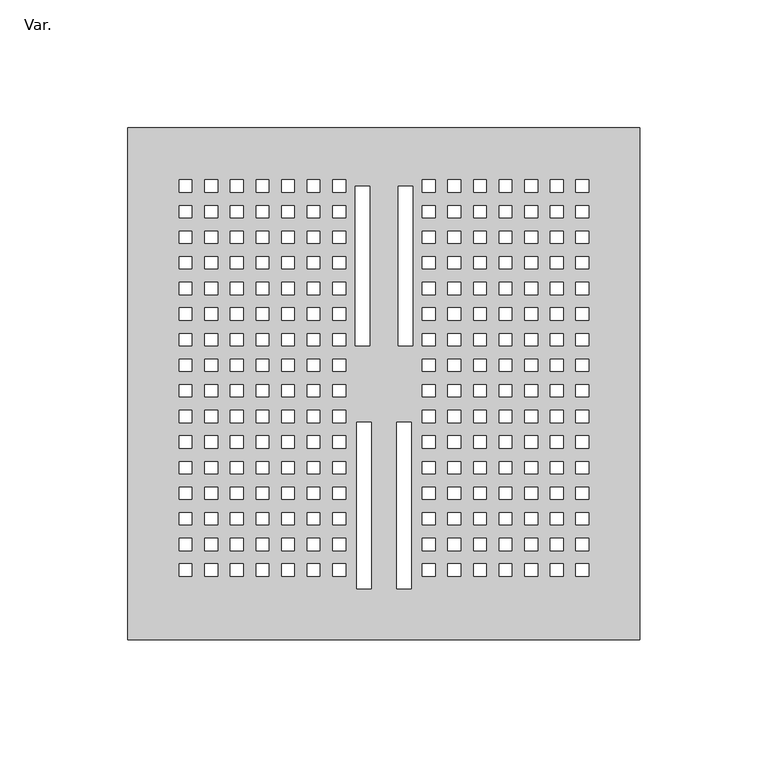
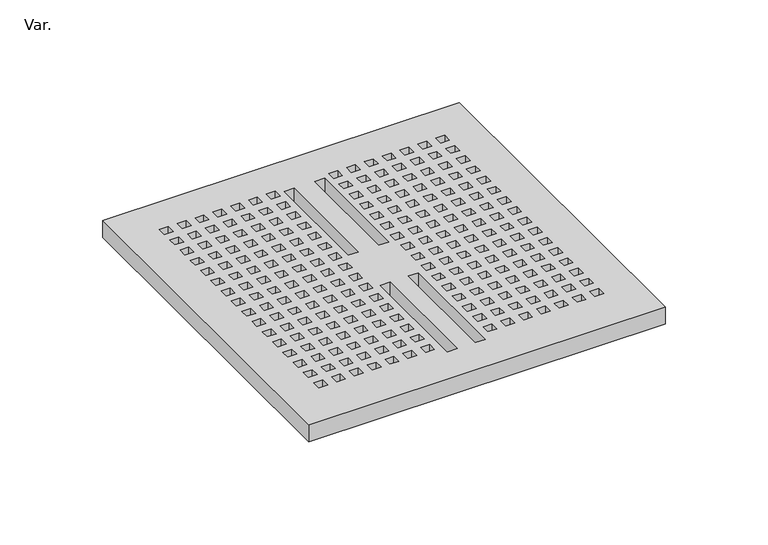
"""IFC4 building model written with IfcOpenShell, lengths in millimetres: pipe fitting geometry, PlastigamaWavin_Unionesdetubería_SanitariaRejillaVentGas20cm : Var.."""

from ifc_helpers import new_model, si_unit, origin, origin_with_axes, place, context, project, spatial, polyline, outline, extrude, source, transform, mapped, element, save


def var_73ac3ff6(model_context):
    return source(origin(), model_context, "Body", "SweptSolid", [
        extrude(outline(polyline([(-100.0, 200.0), (100.0, 200.0), (100.0, 0.0), (-100.0, 0.0), (-100.0, 200.0)]), holes=[polyline([(-11.3046758, 115.0), (-5.6555417, 115.0), (-5.6555417, 177.2854204), (-11.3046758, 177.2854204), (-11.3046758, 115.0)]), polyline([(-10.6491341, 20.0), (-5.0, 20.0), (-5.0, 85.1494369), (-10.6491341, 85.1494369), (-10.6491341, 20.0)]), polyline([(5.6555417, 115.0), (11.3046758, 115.0), (11.3046758, 177.2854204), (5.6555417, 177.2854204), (5.6555417, 115.0)]), polyline([(5.0, 20.0), (10.6491341, 20.0), (10.6491341, 85.1494369), (5.0, 85.1494369), (5.0, 20.0)]), polyline([(-79.9797253, 174.9442398), (-75.0, 174.9442398), (-75.0, 179.7234156), (-79.9797253, 179.7234156), (-79.9797253, 174.9442398)]), polyline([(-69.9797253, 174.9442398), (-65.0, 174.9442398), (-65.0, 179.7234156), (-69.9797253, 179.7234156), (-69.9797253, 174.9442398)]), polyline([(-59.9797253, 174.9442398), (-55.0, 174.9442398), (-55.0, 179.7234156), (-59.9797253, 179.7234156), (-59.9797253, 174.9442398)]), polyline([(-49.9797253, 174.9442398), (-45.0, 174.9442398), (-45.0, 179.7234156), (-49.9797253, 179.7234156), (-49.9797253, 174.9442398)]), polyline([(-39.9797253, 174.9442398), (-35.0, 174.9442398), (-35.0, 179.7234156), (-39.9797253, 179.7234156), (-39.9797253, 174.9442398)]), polyline([(-29.9797253, 174.9442398), (-25.0, 174.9442398), (-25.0, 179.7234156), (-29.9797253, 179.7234156), (-29.9797253, 174.9442398)]), polyline([(-19.9797253, 174.9442398), (-15.0, 174.9442398), (-15.0, 179.7234156), (-19.9797253, 179.7234156), (-19.9797253, 174.9442398)]), polyline([(-79.9797253, 164.9442398), (-75.0, 164.9442398), (-75.0, 169.7234156), (-79.9797253, 169.7234156), (-79.9797253, 164.9442398)]), polyline([(-79.9797253, 154.9442398), (-75.0, 154.9442398), (-75.0, 159.7234156), (-79.9797253, 159.7234156), (-79.9797253, 154.9442398)]), polyline([(-79.9797253, 144.9442398), (-75.0, 144.9442398), (-75.0, 149.7234156), (-79.9797253, 149.7234156), (-79.9797253, 144.9442398)]), polyline([(-79.9797253, 134.9442398), (-75.0, 134.9442398), (-75.0, 139.7234156), (-79.9797253, 139.7234156), (-79.9797253, 134.9442398)]), polyline([(-79.9797253, 124.9442398), (-75.0, 124.9442398), (-75.0, 129.7234156), (-79.9797253, 129.7234156), (-79.9797253, 124.9442398)]), polyline([(-79.9797253, 114.9442398), (-75.0, 114.9442398), (-75.0, 119.7234156), (-79.9797253, 119.7234156), (-79.9797253, 114.9442398)]), polyline([(-79.9797253, 104.9442398), (-75.0, 104.9442398), (-75.0, 109.7234156), (-79.9797253, 109.7234156), (-79.9797253, 104.9442398)]), polyline([(-79.9797253, 94.9442398), (-75.0, 94.9442398), (-75.0, 99.7234156), (-79.9797253, 99.7234156), (-79.9797253, 94.9442398)]), polyline([(-79.9797253, 84.9442398), (-75.0, 84.9442398), (-75.0, 89.7234156), (-79.9797253, 89.7234156), (-79.9797253, 84.9442398)]), polyline([(-79.9797253, 74.9442398), (-75.0, 74.9442398), (-75.0, 79.7234156), (-79.9797253, 79.7234156), (-79.9797253, 74.9442398)]), polyline([(-79.9797253, 64.9442398), (-75.0, 64.9442398), (-75.0, 69.7234156), (-79.9797253, 69.7234156), (-79.9797253, 64.9442398)]), polyline([(-79.9797253, 54.9442398), (-75.0, 54.9442398), (-75.0, 59.7234156), (-79.9797253, 59.7234156), (-79.9797253, 54.9442398)]), polyline([(-79.9797253, 44.9442398), (-75.0, 44.9442398), (-75.0, 49.7234156), (-79.9797253, 49.7234156), (-79.9797253, 44.9442398)]), polyline([(-79.9797253, 34.9442398), (-75.0, 34.9442398), (-75.0, 39.7234156), (-79.9797253, 39.7234156), (-79.9797253, 34.9442398)]), polyline([(-79.9797253, 24.9442398), (-75.0, 24.9442398), (-75.0, 29.7234156), (-79.9797253, 29.7234156), (-79.9797253, 24.9442398)]), polyline([(-69.9797253, 164.9442398), (-65.0, 164.9442398), (-65.0, 169.7234156), (-69.9797253, 169.7234156), (-69.9797253, 164.9442398)]), polyline([(-59.9797253, 164.9442398), (-55.0, 164.9442398), (-55.0, 169.7234156), (-59.9797253, 169.7234156), (-59.9797253, 164.9442398)]), polyline([(-49.9797253, 164.9442398), (-45.0, 164.9442398), (-45.0, 169.7234156), (-49.9797253, 169.7234156), (-49.9797253, 164.9442398)]), polyline([(-39.9797253, 164.9442398), (-35.0, 164.9442398), (-35.0, 169.7234156), (-39.9797253, 169.7234156), (-39.9797253, 164.9442398)]), polyline([(-29.9797253, 164.9442398), (-25.0, 164.9442398), (-25.0, 169.7234156), (-29.9797253, 169.7234156), (-29.9797253, 164.9442398)]), polyline([(-19.9797253, 164.9442398), (-15.0, 164.9442398), (-15.0, 169.7234156), (-19.9797253, 169.7234156), (-19.9797253, 164.9442398)]), polyline([(-69.9797253, 154.9442398), (-65.0, 154.9442398), (-65.0, 159.7234156), (-69.9797253, 159.7234156), (-69.9797253, 154.9442398)]), polyline([(-59.9797253, 154.9442398), (-55.0, 154.9442398), (-55.0, 159.7234156), (-59.9797253, 159.7234156), (-59.9797253, 154.9442398)]), polyline([(-49.9797253, 154.9442398), (-45.0, 154.9442398), (-45.0, 159.7234156), (-49.9797253, 159.7234156), (-49.9797253, 154.9442398)]), polyline([(-39.9797253, 154.9442398), (-35.0, 154.9442398), (-35.0, 159.7234156), (-39.9797253, 159.7234156), (-39.9797253, 154.9442398)]), polyline([(-29.9797253, 154.9442398), (-25.0, 154.9442398), (-25.0, 159.7234156), (-29.9797253, 159.7234156), (-29.9797253, 154.9442398)]), polyline([(-19.9797253, 154.9442398), (-15.0, 154.9442398), (-15.0, 159.7234156), (-19.9797253, 159.7234156), (-19.9797253, 154.9442398)]), polyline([(-69.9797253, 144.9442398), (-65.0, 144.9442398), (-65.0, 149.7234156), (-69.9797253, 149.7234156), (-69.9797253, 144.9442398)]), polyline([(-59.9797253, 144.9442398), (-55.0, 144.9442398), (-55.0, 149.7234156), (-59.9797253, 149.7234156), (-59.9797253, 144.9442398)]), polyline([(-49.9797253, 144.9442398), (-45.0, 144.9442398), (-45.0, 149.7234156), (-49.9797253, 149.7234156), (-49.9797253, 144.9442398)]), polyline([(-39.9797253, 144.9442398), (-35.0, 144.9442398), (-35.0, 149.7234156), (-39.9797253, 149.7234156), (-39.9797253, 144.9442398)]), polyline([(-29.9797253, 144.9442398), (-25.0, 144.9442398), (-25.0, 149.7234156), (-29.9797253, 149.7234156), (-29.9797253, 144.9442398)]), polyline([(-19.9797253, 144.9442398), (-15.0, 144.9442398), (-15.0, 149.7234156), (-19.9797253, 149.7234156), (-19.9797253, 144.9442398)]), polyline([(-69.9797253, 134.9442398), (-65.0, 134.9442398), (-65.0, 139.7234156), (-69.9797253, 139.7234156), (-69.9797253, 134.9442398)]), polyline([(-59.9797253, 134.9442398), (-55.0, 134.9442398), (-55.0, 139.7234156), (-59.9797253, 139.7234156), (-59.9797253, 134.9442398)]), polyline([(-49.9797253, 134.9442398), (-45.0, 134.9442398), (-45.0, 139.7234156), (-49.9797253, 139.7234156), (-49.9797253, 134.9442398)]), polyline([(-39.9797253, 134.9442398), (-35.0, 134.9442398), (-35.0, 139.7234156), (-39.9797253, 139.7234156), (-39.9797253, 134.9442398)]), polyline([(-29.9797253, 134.9442398), (-25.0, 134.9442398), (-25.0, 139.7234156), (-29.9797253, 139.7234156), (-29.9797253, 134.9442398)]), polyline([(-19.9797253, 134.9442398), (-15.0, 134.9442398), (-15.0, 139.7234156), (-19.9797253, 139.7234156), (-19.9797253, 134.9442398)]), polyline([(-69.9797253, 124.9442398), (-65.0, 124.9442398), (-65.0, 129.7234156), (-69.9797253, 129.7234156), (-69.9797253, 124.9442398)]), polyline([(-59.9797253, 124.9442398), (-55.0, 124.9442398), (-55.0, 129.7234156), (-59.9797253, 129.7234156), (-59.9797253, 124.9442398)]), polyline([(-49.9797253, 124.9442398), (-45.0, 124.9442398), (-45.0, 129.7234156), (-49.9797253, 129.7234156), (-49.9797253, 124.9442398)]), polyline([(-39.9797253, 124.9442398), (-35.0, 124.9442398), (-35.0, 129.7234156), (-39.9797253, 129.7234156), (-39.9797253, 124.9442398)]), polyline([(-29.9797253, 124.9442398), (-25.0, 124.9442398), (-25.0, 129.7234156), (-29.9797253, 129.7234156), (-29.9797253, 124.9442398)]), polyline([(-19.9797253, 124.9442398), (-15.0, 124.9442398), (-15.0, 129.7234156), (-19.9797253, 129.7234156), (-19.9797253, 124.9442398)]), polyline([(-69.9797253, 114.9442398), (-65.0, 114.9442398), (-65.0, 119.7234156), (-69.9797253, 119.7234156), (-69.9797253, 114.9442398)]), polyline([(-59.9797253, 114.9442398), (-55.0, 114.9442398), (-55.0, 119.7234156), (-59.9797253, 119.7234156), (-59.9797253, 114.9442398)]), polyline([(-49.9797253, 114.9442398), (-45.0, 114.9442398), (-45.0, 119.7234156), (-49.9797253, 119.7234156), (-49.9797253, 114.9442398)]), polyline([(-39.9797253, 114.9442398), (-35.0, 114.9442398), (-35.0, 119.7234156), (-39.9797253, 119.7234156), (-39.9797253, 114.9442398)]), polyline([(-29.9797253, 114.9442398), (-25.0, 114.9442398), (-25.0, 119.7234156), (-29.9797253, 119.7234156), (-29.9797253, 114.9442398)]), polyline([(-19.9797253, 114.9442398), (-15.0, 114.9442398), (-15.0, 119.7234156), (-19.9797253, 119.7234156), (-19.9797253, 114.9442398)]), polyline([(-69.9797253, 104.9442398), (-65.0, 104.9442398), (-65.0, 109.7234156), (-69.9797253, 109.7234156), (-69.9797253, 104.9442398)]), polyline([(-59.9797253, 104.9442398), (-55.0, 104.9442398), (-55.0, 109.7234156), (-59.9797253, 109.7234156), (-59.9797253, 104.9442398)]), polyline([(-49.9797253, 104.9442398), (-45.0, 104.9442398), (-45.0, 109.7234156), (-49.9797253, 109.7234156), (-49.9797253, 104.9442398)]), polyline([(-39.9797253, 104.9442398), (-35.0, 104.9442398), (-35.0, 109.7234156), (-39.9797253, 109.7234156), (-39.9797253, 104.9442398)]), polyline([(-29.9797253, 104.9442398), (-25.0, 104.9442398), (-25.0, 109.7234156), (-29.9797253, 109.7234156), (-29.9797253, 104.9442398)]), polyline([(-19.9797253, 104.9442398), (-15.0, 104.9442398), (-15.0, 109.7234156), (-19.9797253, 109.7234156), (-19.9797253, 104.9442398)]), polyline([(-69.9797253, 94.9442398), (-65.0, 94.9442398), (-65.0, 99.7234156), (-69.9797253, 99.7234156), (-69.9797253, 94.9442398)]), polyline([(-59.9797253, 94.9442398), (-55.0, 94.9442398), (-55.0, 99.7234156), (-59.9797253, 99.7234156), (-59.9797253, 94.9442398)]), polyline([(-49.9797253, 94.9442398), (-45.0, 94.9442398), (-45.0, 99.7234156), (-49.9797253, 99.7234156), (-49.9797253, 94.9442398)]), polyline([(-39.9797253, 94.9442398), (-35.0, 94.9442398), (-35.0, 99.7234156), (-39.9797253, 99.7234156), (-39.9797253, 94.9442398)]), polyline([(-29.9797253, 94.9442398), (-25.0, 94.9442398), (-25.0, 99.7234156), (-29.9797253, 99.7234156), (-29.9797253, 94.9442398)]), polyline([(-19.9797253, 94.9442398), (-15.0, 94.9442398), (-15.0, 99.7234156), (-19.9797253, 99.7234156), (-19.9797253, 94.9442398)]), polyline([(-69.9797253, 84.9442398), (-65.0, 84.9442398), (-65.0, 89.7234156), (-69.9797253, 89.7234156), (-69.9797253, 84.9442398)]), polyline([(-59.9797253, 84.9442398), (-55.0, 84.9442398), (-55.0, 89.7234156), (-59.9797253, 89.7234156), (-59.9797253, 84.9442398)]), polyline([(-49.9797253, 84.9442398), (-45.0, 84.9442398), (-45.0, 89.7234156), (-49.9797253, 89.7234156), (-49.9797253, 84.9442398)]), polyline([(-39.9797253, 84.9442398), (-35.0, 84.9442398), (-35.0, 89.7234156), (-39.9797253, 89.7234156), (-39.9797253, 84.9442398)]), polyline([(-29.9797253, 84.9442398), (-25.0, 84.9442398), (-25.0, 89.7234156), (-29.9797253, 89.7234156), (-29.9797253, 84.9442398)]), polyline([(-19.9797253, 84.9442398), (-15.0, 84.9442398), (-15.0, 89.7234156), (-19.9797253, 89.7234156), (-19.9797253, 84.9442398)]), polyline([(-69.9797253, 74.9442398), (-65.0, 74.9442398), (-65.0, 79.7234156), (-69.9797253, 79.7234156), (-69.9797253, 74.9442398)]), polyline([(-59.9797253, 74.9442398), (-55.0, 74.9442398), (-55.0, 79.7234156), (-59.9797253, 79.7234156), (-59.9797253, 74.9442398)]), polyline([(-49.9797253, 74.9442398), (-45.0, 74.9442398), (-45.0, 79.7234156), (-49.9797253, 79.7234156), (-49.9797253, 74.9442398)]), polyline([(-39.9797253, 74.9442398), (-35.0, 74.9442398), (-35.0, 79.7234156), (-39.9797253, 79.7234156), (-39.9797253, 74.9442398)]), polyline([(-29.9797253, 74.9442398), (-25.0, 74.9442398), (-25.0, 79.7234156), (-29.9797253, 79.7234156), (-29.9797253, 74.9442398)]), polyline([(-19.9797253, 74.9442398), (-15.0, 74.9442398), (-15.0, 79.7234156), (-19.9797253, 79.7234156), (-19.9797253, 74.9442398)]), polyline([(-69.9797253, 64.9442398), (-65.0, 64.9442398), (-65.0, 69.7234156), (-69.9797253, 69.7234156), (-69.9797253, 64.9442398)]), polyline([(-59.9797253, 64.9442398), (-55.0, 64.9442398), (-55.0, 69.7234156), (-59.9797253, 69.7234156), (-59.9797253, 64.9442398)]), polyline([(-49.9797253, 64.9442398), (-45.0, 64.9442398), (-45.0, 69.7234156), (-49.9797253, 69.7234156), (-49.9797253, 64.9442398)]), polyline([(-39.9797253, 64.9442398), (-35.0, 64.9442398), (-35.0, 69.7234156), (-39.9797253, 69.7234156), (-39.9797253, 64.9442398)]), polyline([(-29.9797253, 64.9442398), (-25.0, 64.9442398), (-25.0, 69.7234156), (-29.9797253, 69.7234156), (-29.9797253, 64.9442398)]), polyline([(-19.9797253, 64.9442398), (-15.0, 64.9442398), (-15.0, 69.7234156), (-19.9797253, 69.7234156), (-19.9797253, 64.9442398)]), polyline([(-69.9797253, 54.9442398), (-65.0, 54.9442398), (-65.0, 59.7234156), (-69.9797253, 59.7234156), (-69.9797253, 54.9442398)]), polyline([(-59.9797253, 54.9442398), (-55.0, 54.9442398), (-55.0, 59.7234156), (-59.9797253, 59.7234156), (-59.9797253, 54.9442398)]), polyline([(-49.9797253, 54.9442398), (-45.0, 54.9442398), (-45.0, 59.7234156), (-49.9797253, 59.7234156), (-49.9797253, 54.9442398)]), polyline([(-39.9797253, 54.9442398), (-35.0, 54.9442398), (-35.0, 59.7234156), (-39.9797253, 59.7234156), (-39.9797253, 54.9442398)]), polyline([(-29.9797253, 54.9442398), (-25.0, 54.9442398), (-25.0, 59.7234156), (-29.9797253, 59.7234156), (-29.9797253, 54.9442398)]), polyline([(-19.9797253, 54.9442398), (-15.0, 54.9442398), (-15.0, 59.7234156), (-19.9797253, 59.7234156), (-19.9797253, 54.9442398)]), polyline([(-69.9797253, 44.9442398), (-65.0, 44.9442398), (-65.0, 49.7234156), (-69.9797253, 49.7234156), (-69.9797253, 44.9442398)]), polyline([(-59.9797253, 44.9442398), (-55.0, 44.9442398), (-55.0, 49.7234156), (-59.9797253, 49.7234156), (-59.9797253, 44.9442398)]), polyline([(-49.9797253, 44.9442398), (-45.0, 44.9442398), (-45.0, 49.7234156), (-49.9797253, 49.7234156), (-49.9797253, 44.9442398)]), polyline([(-39.9797253, 44.9442398), (-35.0, 44.9442398), (-35.0, 49.7234156), (-39.9797253, 49.7234156), (-39.9797253, 44.9442398)]), polyline([(-29.9797253, 44.9442398), (-25.0, 44.9442398), (-25.0, 49.7234156), (-29.9797253, 49.7234156), (-29.9797253, 44.9442398)]), polyline([(-19.9797253, 44.9442398), (-15.0, 44.9442398), (-15.0, 49.7234156), (-19.9797253, 49.7234156), (-19.9797253, 44.9442398)]), polyline([(-69.9797253, 34.9442398), (-65.0, 34.9442398), (-65.0, 39.7234156), (-69.9797253, 39.7234156), (-69.9797253, 34.9442398)]), polyline([(-59.9797253, 34.9442398), (-55.0, 34.9442398), (-55.0, 39.7234156), (-59.9797253, 39.7234156), (-59.9797253, 34.9442398)]), polyline([(-49.9797253, 34.9442398), (-45.0, 34.9442398), (-45.0, 39.7234156), (-49.9797253, 39.7234156), (-49.9797253, 34.9442398)]), polyline([(-39.9797253, 34.9442398), (-35.0, 34.9442398), (-35.0, 39.7234156), (-39.9797253, 39.7234156), (-39.9797253, 34.9442398)]), polyline([(-29.9797253, 34.9442398), (-25.0, 34.9442398), (-25.0, 39.7234156), (-29.9797253, 39.7234156), (-29.9797253, 34.9442398)]), polyline([(-19.9797253, 34.9442398), (-15.0, 34.9442398), (-15.0, 39.7234156), (-19.9797253, 39.7234156), (-19.9797253, 34.9442398)]), polyline([(-69.9797253, 24.9442398), (-65.0, 24.9442398), (-65.0, 29.7234156), (-69.9797253, 29.7234156), (-69.9797253, 24.9442398)]), polyline([(-59.9797253, 24.9442398), (-55.0, 24.9442398), (-55.0, 29.7234156), (-59.9797253, 29.7234156), (-59.9797253, 24.9442398)]), polyline([(-49.9797253, 24.9442398), (-45.0, 24.9442398), (-45.0, 29.7234156), (-49.9797253, 29.7234156), (-49.9797253, 24.9442398)]), polyline([(-39.9797253, 24.9442398), (-35.0, 24.9442398), (-35.0, 29.7234156), (-39.9797253, 29.7234156), (-39.9797253, 24.9442398)]), polyline([(-29.9797253, 24.9442398), (-25.0, 24.9442398), (-25.0, 29.7234156), (-29.9797253, 29.7234156), (-29.9797253, 24.9442398)]), polyline([(-19.9797253, 24.9442398), (-15.0, 24.9442398), (-15.0, 29.7234156), (-19.9797253, 29.7234156), (-19.9797253, 24.9442398)]), polyline([(75.0, 174.9442398), (79.9797253, 174.9442398), (79.9797253, 179.7234156), (75.0, 179.7234156), (75.0, 174.9442398)]), polyline([(65.0, 174.9442398), (69.9797253, 174.9442398), (69.9797253, 179.7234156), (65.0, 179.7234156), (65.0, 174.9442398)]), polyline([(55.0, 174.9442398), (59.9797253, 174.9442398), (59.9797253, 179.7234156), (55.0, 179.7234156), (55.0, 174.9442398)]), polyline([(45.0, 174.9442398), (49.9797253, 174.9442398), (49.9797253, 179.7234156), (45.0, 179.7234156), (45.0, 174.9442398)]), polyline([(35.0, 174.9442398), (39.9797253, 174.9442398), (39.9797253, 179.7234156), (35.0, 179.7234156), (35.0, 174.9442398)]), polyline([(25.0, 174.9442398), (29.9797253, 174.9442398), (29.9797253, 179.7234156), (25.0, 179.7234156), (25.0, 174.9442398)]), polyline([(15.0, 174.9442398), (19.9797253, 174.9442398), (19.9797253, 179.7234156), (15.0, 179.7234156), (15.0, 174.9442398)]), polyline([(75.0, 164.9442398), (79.9797253, 164.9442398), (79.9797253, 169.7234156), (75.0, 169.7234156), (75.0, 164.9442398)]), polyline([(75.0, 154.9442398), (79.9797253, 154.9442398), (79.9797253, 159.7234156), (75.0, 159.7234156), (75.0, 154.9442398)]), polyline([(75.0, 144.9442398), (79.9797253, 144.9442398), (79.9797253, 149.7234156), (75.0, 149.7234156), (75.0, 144.9442398)]), polyline([(75.0, 134.9442398), (79.9797253, 134.9442398), (79.9797253, 139.7234156), (75.0, 139.7234156), (75.0, 134.9442398)]), polyline([(75.0, 124.9442398), (79.9797253, 124.9442398), (79.9797253, 129.7234156), (75.0, 129.7234156), (75.0, 124.9442398)]), polyline([(75.0, 114.9442398), (79.9797253, 114.9442398), (79.9797253, 119.7234156), (75.0, 119.7234156), (75.0, 114.9442398)]), polyline([(75.0, 104.9442398), (79.9797253, 104.9442398), (79.9797253, 109.7234156), (75.0, 109.7234156), (75.0, 104.9442398)]), polyline([(75.0, 94.9442398), (79.9797253, 94.9442398), (79.9797253, 99.7234156), (75.0, 99.7234156), (75.0, 94.9442398)]), polyline([(75.0, 84.9442398), (79.9797253, 84.9442398), (79.9797253, 89.7234156), (75.0, 89.7234156), (75.0, 84.9442398)]), polyline([(75.0, 74.9442398), (79.9797253, 74.9442398), (79.9797253, 79.7234156), (75.0, 79.7234156), (75.0, 74.9442398)]), polyline([(75.0, 64.9442398), (79.9797253, 64.9442398), (79.9797253, 69.7234156), (75.0, 69.7234156), (75.0, 64.9442398)]), polyline([(75.0, 54.9442398), (79.9797253, 54.9442398), (79.9797253, 59.7234156), (75.0, 59.7234156), (75.0, 54.9442398)]), polyline([(75.0, 44.9442398), (79.9797253, 44.9442398), (79.9797253, 49.7234156), (75.0, 49.7234156), (75.0, 44.9442398)]), polyline([(75.0, 34.9442398), (79.9797253, 34.9442398), (79.9797253, 39.7234156), (75.0, 39.7234156), (75.0, 34.9442398)]), polyline([(75.0, 24.9442398), (79.9797253, 24.9442398), (79.9797253, 29.7234156), (75.0, 29.7234156), (75.0, 24.9442398)]), polyline([(65.0, 164.9442398), (69.9797253, 164.9442398), (69.9797253, 169.7234156), (65.0, 169.7234156), (65.0, 164.9442398)]), polyline([(55.0, 164.9442398), (59.9797253, 164.9442398), (59.9797253, 169.7234156), (55.0, 169.7234156), (55.0, 164.9442398)]), polyline([(45.0, 164.9442398), (49.9797253, 164.9442398), (49.9797253, 169.7234156), (45.0, 169.7234156), (45.0, 164.9442398)]), polyline([(35.0, 164.9442398), (39.9797253, 164.9442398), (39.9797253, 169.7234156), (35.0, 169.7234156), (35.0, 164.9442398)]), polyline([(25.0, 164.9442398), (29.9797253, 164.9442398), (29.9797253, 169.7234156), (25.0, 169.7234156), (25.0, 164.9442398)]), polyline([(15.0, 164.9442398), (19.9797253, 164.9442398), (19.9797253, 169.7234156), (15.0, 169.7234156), (15.0, 164.9442398)]), polyline([(65.0, 154.9442398), (69.9797253, 154.9442398), (69.9797253, 159.7234156), (65.0, 159.7234156), (65.0, 154.9442398)]), polyline([(55.0, 154.9442398), (59.9797253, 154.9442398), (59.9797253, 159.7234156), (55.0, 159.7234156), (55.0, 154.9442398)]), polyline([(45.0, 154.9442398), (49.9797253, 154.9442398), (49.9797253, 159.7234156), (45.0, 159.7234156), (45.0, 154.9442398)]), polyline([(35.0, 154.9442398), (39.9797253, 154.9442398), (39.9797253, 159.7234156), (35.0, 159.7234156), (35.0, 154.9442398)]), polyline([(25.0, 154.9442398), (29.9797253, 154.9442398), (29.9797253, 159.7234156), (25.0, 159.7234156), (25.0, 154.9442398)]), polyline([(15.0, 154.9442398), (19.9797253, 154.9442398), (19.9797253, 159.7234156), (15.0, 159.7234156), (15.0, 154.9442398)]), polyline([(65.0, 144.9442398), (69.9797253, 144.9442398), (69.9797253, 149.7234156), (65.0, 149.7234156), (65.0, 144.9442398)]), polyline([(55.0, 144.9442398), (59.9797253, 144.9442398), (59.9797253, 149.7234156), (55.0, 149.7234156), (55.0, 144.9442398)]), polyline([(45.0, 144.9442398), (49.9797253, 144.9442398), (49.9797253, 149.7234156), (45.0, 149.7234156), (45.0, 144.9442398)]), polyline([(35.0, 144.9442398), (39.9797253, 144.9442398), (39.9797253, 149.7234156), (35.0, 149.7234156), (35.0, 144.9442398)]), polyline([(25.0, 144.9442398), (29.9797253, 144.9442398), (29.9797253, 149.7234156), (25.0, 149.7234156), (25.0, 144.9442398)]), polyline([(15.0, 144.9442398), (19.9797253, 144.9442398), (19.9797253, 149.7234156), (15.0, 149.7234156), (15.0, 144.9442398)]), polyline([(65.0, 134.9442398), (69.9797253, 134.9442398), (69.9797253, 139.7234156), (65.0, 139.7234156), (65.0, 134.9442398)]), polyline([(55.0, 134.9442398), (59.9797253, 134.9442398), (59.9797253, 139.7234156), (55.0, 139.7234156), (55.0, 134.9442398)]), polyline([(45.0, 134.9442398), (49.9797253, 134.9442398), (49.9797253, 139.7234156), (45.0, 139.7234156), (45.0, 134.9442398)]), polyline([(35.0, 134.9442398), (39.9797253, 134.9442398), (39.9797253, 139.7234156), (35.0, 139.7234156), (35.0, 134.9442398)]), polyline([(25.0, 134.9442398), (29.9797253, 134.9442398), (29.9797253, 139.7234156), (25.0, 139.7234156), (25.0, 134.9442398)]), polyline([(15.0, 134.9442398), (19.9797253, 134.9442398), (19.9797253, 139.7234156), (15.0, 139.7234156), (15.0, 134.9442398)]), polyline([(65.0, 124.9442398), (69.9797253, 124.9442398), (69.9797253, 129.7234156), (65.0, 129.7234156), (65.0, 124.9442398)]), polyline([(55.0, 124.9442398), (59.9797253, 124.9442398), (59.9797253, 129.7234156), (55.0, 129.7234156), (55.0, 124.9442398)]), polyline([(45.0, 124.9442398), (49.9797253, 124.9442398), (49.9797253, 129.7234156), (45.0, 129.7234156), (45.0, 124.9442398)]), polyline([(35.0, 124.9442398), (39.9797253, 124.9442398), (39.9797253, 129.7234156), (35.0, 129.7234156), (35.0, 124.9442398)]), polyline([(25.0, 124.9442398), (29.9797253, 124.9442398), (29.9797253, 129.7234156), (25.0, 129.7234156), (25.0, 124.9442398)]), polyline([(15.0, 124.9442398), (19.9797253, 124.9442398), (19.9797253, 129.7234156), (15.0, 129.7234156), (15.0, 124.9442398)]), polyline([(65.0, 114.9442398), (69.9797253, 114.9442398), (69.9797253, 119.7234156), (65.0, 119.7234156), (65.0, 114.9442398)]), polyline([(55.0, 114.9442398), (59.9797253, 114.9442398), (59.9797253, 119.7234156), (55.0, 119.7234156), (55.0, 114.9442398)]), polyline([(45.0, 114.9442398), (49.9797253, 114.9442398), (49.9797253, 119.7234156), (45.0, 119.7234156), (45.0, 114.9442398)]), polyline([(35.0, 114.9442398), (39.9797253, 114.9442398), (39.9797253, 119.7234156), (35.0, 119.7234156), (35.0, 114.9442398)]), polyline([(25.0, 114.9442398), (29.9797253, 114.9442398), (29.9797253, 119.7234156), (25.0, 119.7234156), (25.0, 114.9442398)]), polyline([(15.0, 114.9442398), (19.9797253, 114.9442398), (19.9797253, 119.7234156), (15.0, 119.7234156), (15.0, 114.9442398)]), polyline([(65.0, 104.9442398), (69.9797253, 104.9442398), (69.9797253, 109.7234156), (65.0, 109.7234156), (65.0, 104.9442398)]), polyline([(55.0, 104.9442398), (59.9797253, 104.9442398), (59.9797253, 109.7234156), (55.0, 109.7234156), (55.0, 104.9442398)]), polyline([(45.0, 104.9442398), (49.9797253, 104.9442398), (49.9797253, 109.7234156), (45.0, 109.7234156), (45.0, 104.9442398)]), polyline([(35.0, 104.9442398), (39.9797253, 104.9442398), (39.9797253, 109.7234156), (35.0, 109.7234156), (35.0, 104.9442398)]), polyline([(25.0, 104.9442398), (29.9797253, 104.9442398), (29.9797253, 109.7234156), (25.0, 109.7234156), (25.0, 104.9442398)]), polyline([(15.0, 104.9442398), (19.9797253, 104.9442398), (19.9797253, 109.7234156), (15.0, 109.7234156), (15.0, 104.9442398)]), polyline([(65.0, 94.9442398), (69.9797253, 94.9442398), (69.9797253, 99.7234156), (65.0, 99.7234156), (65.0, 94.9442398)]), polyline([(55.0, 94.9442398), (59.9797253, 94.9442398), (59.9797253, 99.7234156), (55.0, 99.7234156), (55.0, 94.9442398)]), polyline([(45.0, 94.9442398), (49.9797253, 94.9442398), (49.9797253, 99.7234156), (45.0, 99.7234156), (45.0, 94.9442398)]), polyline([(35.0, 94.9442398), (39.9797253, 94.9442398), (39.9797253, 99.7234156), (35.0, 99.7234156), (35.0, 94.9442398)]), polyline([(25.0, 94.9442398), (29.9797253, 94.9442398), (29.9797253, 99.7234156), (25.0, 99.7234156), (25.0, 94.9442398)]), polyline([(15.0, 94.9442398), (19.9797253, 94.9442398), (19.9797253, 99.7234156), (15.0, 99.7234156), (15.0, 94.9442398)]), polyline([(65.0, 84.9442398), (69.9797253, 84.9442398), (69.9797253, 89.7234156), (65.0, 89.7234156), (65.0, 84.9442398)]), polyline([(55.0, 84.9442398), (59.9797253, 84.9442398), (59.9797253, 89.7234156), (55.0, 89.7234156), (55.0, 84.9442398)]), polyline([(45.0, 84.9442398), (49.9797253, 84.9442398), (49.9797253, 89.7234156), (45.0, 89.7234156), (45.0, 84.9442398)]), polyline([(35.0, 84.9442398), (39.9797253, 84.9442398), (39.9797253, 89.7234156), (35.0, 89.7234156), (35.0, 84.9442398)]), polyline([(25.0, 84.9442398), (29.9797253, 84.9442398), (29.9797253, 89.7234156), (25.0, 89.7234156), (25.0, 84.9442398)]), polyline([(15.0, 84.9442398), (19.9797253, 84.9442398), (19.9797253, 89.7234156), (15.0, 89.7234156), (15.0, 84.9442398)]), polyline([(65.0, 74.9442398), (69.9797253, 74.9442398), (69.9797253, 79.7234156), (65.0, 79.7234156), (65.0, 74.9442398)]), polyline([(55.0, 74.9442398), (59.9797253, 74.9442398), (59.9797253, 79.7234156), (55.0, 79.7234156), (55.0, 74.9442398)]), polyline([(45.0, 74.9442398), (49.9797253, 74.9442398), (49.9797253, 79.7234156), (45.0, 79.7234156), (45.0, 74.9442398)]), polyline([(35.0, 74.9442398), (39.9797253, 74.9442398), (39.9797253, 79.7234156), (35.0, 79.7234156), (35.0, 74.9442398)]), polyline([(25.0, 74.9442398), (29.9797253, 74.9442398), (29.9797253, 79.7234156), (25.0, 79.7234156), (25.0, 74.9442398)]), polyline([(15.0, 74.9442398), (19.9797253, 74.9442398), (19.9797253, 79.7234156), (15.0, 79.7234156), (15.0, 74.9442398)]), polyline([(65.0, 64.9442398), (69.9797253, 64.9442398), (69.9797253, 69.7234156), (65.0, 69.7234156), (65.0, 64.9442398)]), polyline([(55.0, 64.9442398), (59.9797253, 64.9442398), (59.9797253, 69.7234156), (55.0, 69.7234156), (55.0, 64.9442398)]), polyline([(45.0, 64.9442398), (49.9797253, 64.9442398), (49.9797253, 69.7234156), (45.0, 69.7234156), (45.0, 64.9442398)]), polyline([(35.0, 64.9442398), (39.9797253, 64.9442398), (39.9797253, 69.7234156), (35.0, 69.7234156), (35.0, 64.9442398)]), polyline([(25.0, 64.9442398), (29.9797253, 64.9442398), (29.9797253, 69.7234156), (25.0, 69.7234156), (25.0, 64.9442398)]), polyline([(15.0, 64.9442398), (19.9797253, 64.9442398), (19.9797253, 69.7234156), (15.0, 69.7234156), (15.0, 64.9442398)]), polyline([(65.0, 54.9442398), (69.9797253, 54.9442398), (69.9797253, 59.7234156), (65.0, 59.7234156), (65.0, 54.9442398)]), polyline([(55.0, 54.9442398), (59.9797253, 54.9442398), (59.9797253, 59.7234156), (55.0, 59.7234156), (55.0, 54.9442398)]), polyline([(45.0, 54.9442398), (49.9797253, 54.9442398), (49.9797253, 59.7234156), (45.0, 59.7234156), (45.0, 54.9442398)]), polyline([(35.0, 54.9442398), (39.9797253, 54.9442398), (39.9797253, 59.7234156), (35.0, 59.7234156), (35.0, 54.9442398)]), polyline([(25.0, 54.9442398), (29.9797253, 54.9442398), (29.9797253, 59.7234156), (25.0, 59.7234156), (25.0, 54.9442398)]), polyline([(15.0, 54.9442398), (19.9797253, 54.9442398), (19.9797253, 59.7234156), (15.0, 59.7234156), (15.0, 54.9442398)]), polyline([(65.0, 44.9442398), (69.9797253, 44.9442398), (69.9797253, 49.7234156), (65.0, 49.7234156), (65.0, 44.9442398)]), polyline([(55.0, 44.9442398), (59.9797253, 44.9442398), (59.9797253, 49.7234156), (55.0, 49.7234156), (55.0, 44.9442398)]), polyline([(45.0, 44.9442398), (49.9797253, 44.9442398), (49.9797253, 49.7234156), (45.0, 49.7234156), (45.0, 44.9442398)]), polyline([(35.0, 44.9442398), (39.9797253, 44.9442398), (39.9797253, 49.7234156), (35.0, 49.7234156), (35.0, 44.9442398)]), polyline([(25.0, 44.9442398), (29.9797253, 44.9442398), (29.9797253, 49.7234156), (25.0, 49.7234156), (25.0, 44.9442398)]), polyline([(15.0, 44.9442398), (19.9797253, 44.9442398), (19.9797253, 49.7234156), (15.0, 49.7234156), (15.0, 44.9442398)]), polyline([(65.0, 34.9442398), (69.9797253, 34.9442398), (69.9797253, 39.7234156), (65.0, 39.7234156), (65.0, 34.9442398)]), polyline([(55.0, 34.9442398), (59.9797253, 34.9442398), (59.9797253, 39.7234156), (55.0, 39.7234156), (55.0, 34.9442398)]), polyline([(45.0, 34.9442398), (49.9797253, 34.9442398), (49.9797253, 39.7234156), (45.0, 39.7234156), (45.0, 34.9442398)]), polyline([(35.0, 34.9442398), (39.9797253, 34.9442398), (39.9797253, 39.7234156), (35.0, 39.7234156), (35.0, 34.9442398)]), polyline([(25.0, 34.9442398), (29.9797253, 34.9442398), (29.9797253, 39.7234156), (25.0, 39.7234156), (25.0, 34.9442398)]), polyline([(15.0, 34.9442398), (19.9797253, 34.9442398), (19.9797253, 39.7234156), (15.0, 39.7234156), (15.0, 34.9442398)]), polyline([(65.0, 24.9442398), (69.9797253, 24.9442398), (69.9797253, 29.7234156), (65.0, 29.7234156), (65.0, 24.9442398)]), polyline([(55.0, 24.9442398), (59.9797253, 24.9442398), (59.9797253, 29.7234156), (55.0, 29.7234156), (55.0, 24.9442398)]), polyline([(45.0, 24.9442398), (49.9797253, 24.9442398), (49.9797253, 29.7234156), (45.0, 29.7234156), (45.0, 24.9442398)]), polyline([(35.0, 24.9442398), (39.9797253, 24.9442398), (39.9797253, 29.7234156), (35.0, 29.7234156), (35.0, 24.9442398)]), polyline([(25.0, 24.9442398), (29.9797253, 24.9442398), (29.9797253, 29.7234156), (25.0, 29.7234156), (25.0, 24.9442398)]), polyline([(15.0, 24.9442398), (19.9797253, 24.9442398), (19.9797253, 29.7234156), (15.0, 29.7234156), (15.0, 24.9442398)])]), origin_with_axes(), (0.0, 0.0, 1.0), 10.0),
    ])


if __name__ == "__main__":
    model = new_model("IFC4")
    model_context = context("Model", 3, world=origin())
    ifc_project = project(units=[si_unit("LENGTHUNIT", "METRE", prefix="MILLI")], contexts=[model_context])
    site = spatial("IfcSite", under=ifc_project)
    building = spatial("IfcBuilding", under=site)
    placement = place(None, origin())
    var_shape = var_73ac3ff6(model_context)
    element("IfcPipeFitting", 1, ObjectType="PlastigamaWavin_Unionesdetubería_SanitariaRejillaVentGas20cm : Var.", at=placement, inside=building, context=model_context, shape_type="MappedRepresentation", body=[
        mapped(var_shape, transform((0.0, 0.0, 0.0), x_axis=(1.0, 0.0, 0.0), y_axis=(0.0, 1.0, 0.0), z_axis=(0.0, 0.0, 1.0))),
    ])
    save(model, "model.ifc")
